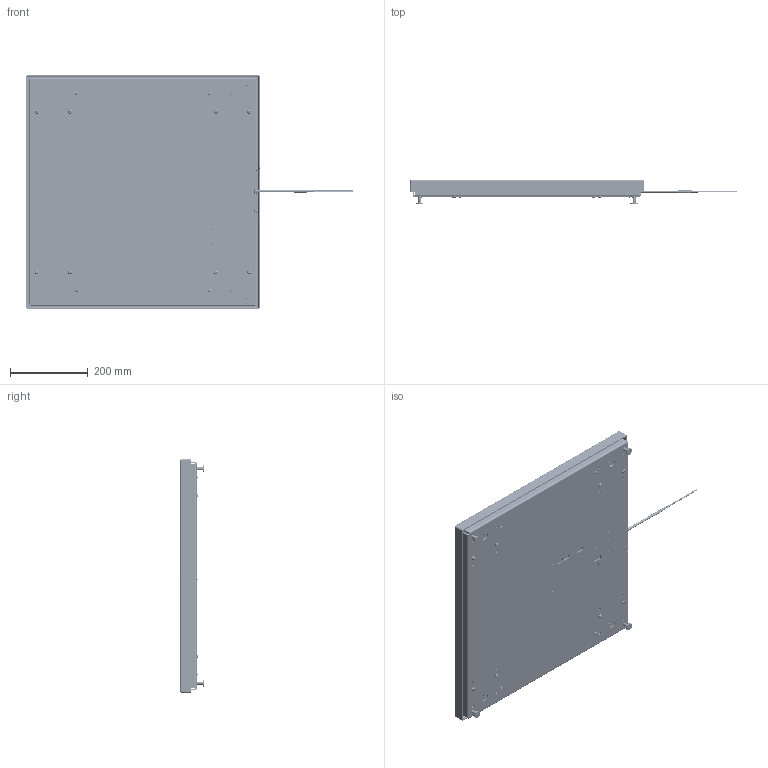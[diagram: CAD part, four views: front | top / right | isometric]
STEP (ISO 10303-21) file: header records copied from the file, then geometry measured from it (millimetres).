
FILE_DESCRIPTION (( 'STEP AP214' ), '1' );
FILE_NAME ('HI2424SBU-330.STEP', '2019-08-13T22:33:53', ( '' ), ( '' ), 'SwSTEP 2.0', 'SolidWorks 2017', '' );
FILE_SCHEMA (( 'AUTOMOTIVE_DESIGN' ));
Length unit declared in the file: millimetre
Products named in the file (41): 0075230_91780A198; 0074872; 0075232_80-001903; 0075233; 2808-0013-0; hex jam nut_ai_HJNUT 0.2500-20-D-N; 0075287_C2 CHIP; HI2424SBU-330; 0530-0628-01; socket head cap screw_am_B18.3.1M - 6 x 1.0 x 20 Hex SHCS -- 20NHX-A2.70; 0074879; 0075175_84-227975; 0074880; socket head cap screw_am_B18.3.1M - 4 x 0.7 x 8 Hex SHCS -- 8NHX-A2.70; 0075200_93505A451; 0075293; socket button head cap screw_am_B18.3.4M - 6 x 1.0 x 20 SBHCS --N-A2.70; 0075309; pan cross head_ai_CR-PHMS 0.164-32x0.3125x0.3125-N-A2.70; 0018546; 0074904; 0075294; flat head screw_ai_CR-FHMS 0.164-32x0.875x0.875-N-A2.70; 0075295; LOAD CELL CABLE; 2817-0272-0_90402A146; 0075174_5; 2814-0098-0_90633A007; 0075172_A3, A4 & A5; 0514-0239-01-0; 0075305_42-000848; 0074757_Modified By Hardy; 0074918; 0075231_PBSH-150kg 600 X 600; 0075290; 0078239; 0075173_B5; 0075198; 0530-0629-XX; 0074915_Modified By Hardy_Default<As Machined>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
Assembly tree (82 placements, depth 4):
  HI2424SBU-330
    0074904
      0074915_Modified By Hardy_Default<As Machined>
      0074918  x4
      0078239
    0075309
    0075175_84-227975  x4
      0075172_A3, A4 & A5
      0075174_5
      0075173_B5
    hex jam nut_ai_HJNUT 0.2500-20-D-N  x4
    0074757_Modified By Hardy
    0075198  x4
    0075200_93505A451  x4
    0075290
      0075233
      0018546  x4
      0075287_C2 CHIP
      0075295  x4
        0075294
        0075293
    pan cross head_ai_CR-PHMS 0.164-32x0.3125x0.3125-N-A2.70  x4
    0074880  x4
      0074872
      0074879
      0067075
      socket head cap screw_am_B18.3.1M - 6 x 1.0 x 20 Hex SHCS -- 20NHX-A2.70
    0075231_PBSH-150kg 600 X 600  x4
      0075230_91780A198
      0075232_80-001903
      flat head screw_ai_CR-FHMS 0.164-32x0.875x0.875-N-A2.70
      pan cross head_ai_CR-PHMS 0.164-32x0.3125x0.3125-N-A2.70
    socket button head cap screw_am_B18.3.4M - 6 x 1.0 x 20 SBHCS --N-A2.70  x8
    2814-0098-0_90633A007  x2
    0514-0239-01-0
    2817-0272-0_90402A146
    2808-0013-0
    LOAD CELL CABLE
    socket head cap screw_am_B18.3.1M - 4 x 0.7 x 8 Hex SHCS -- 8NHX-A2.70
    0075305_42-000848
    0530-0628-01
    0530-0629-XX
Bounding box: 852.36 x 61.68 x 600 mm (x, y, z)
Volume: 2797410.6 mm3; surface area: 1873692.3 mm2
Topology: 208 solids, 208 shells, 9420 faces, 24202 edges, 15583 vertices
Faces by surface type: plane 6266, cylinder 1622, cone 704, bspline 650, torus 140, sphere 38
Entity records: 267860 total; most frequent: CARTESIAN_POINT 59079, ORIENTED_EDGE 33652, DIRECTION 28732, EDGE_CURVE 16826, VECTOR 13504, LINE 13504, VERTEX_POINT 11029, AXIS2_PLACEMENT_3D 7614
